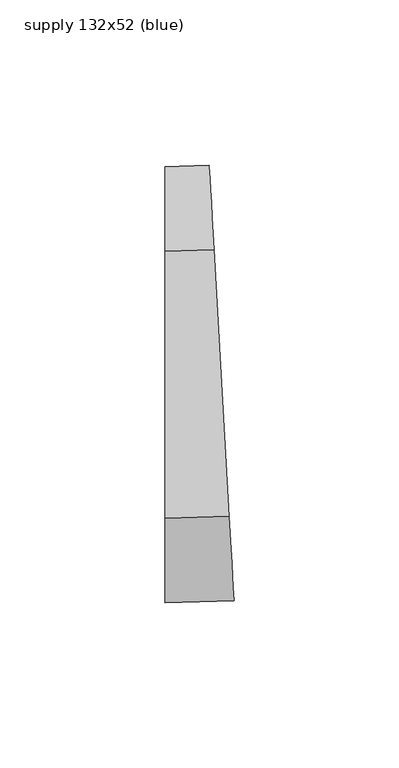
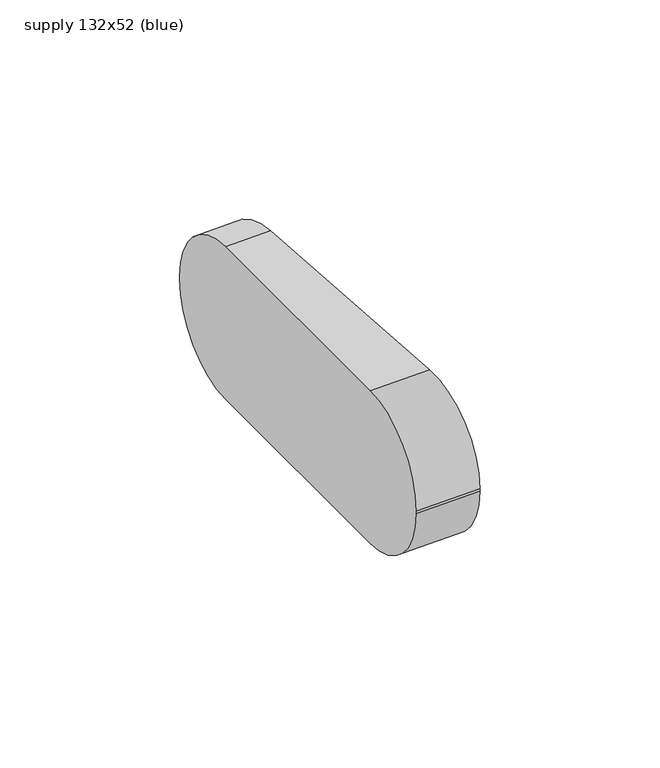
"""IFC4 building model written with IfcOpenShell, lengths in millimetres: duct segment geometry, NLRS_57_DUF_UN_Hybalans flexbend oval_M&G : supply 132x52 (blue)."""

from ifc_helpers import new_model, si_unit, point, frame, origin, place, context, project, spatial, polyline, circle_curve, ellipse_curve, trimmed, source, transform, mapped, element, save
from ifc_brep_helpers import plane_surface, cylinder_surface, revolved_surface, advanced_brep


def supply_132x52_blue_63ce6e41(model_context):
    return source(origin(), model_context, "Body", "AdvancedBrep", [
        advanced_brep(
        [(-8.5652348, -40.4, 26.0), (-8.5652348, 40.4, 26.0), (-8.5652348, 66.0, 0.4), (-8.5652348, 66.0, -0.4), (-8.5652348, 40.4, -26.0), (-8.5652348, -40.4, -26.0), (-8.5652348, -66.0, -0.4), (-8.5652348, -66.0, 0.4), (10.8563067, -39.8454998, 26.0), (12.3169161, -65.4037982, 0.4), (12.3169161, -65.4037982, -0.4), (10.8563067, -39.8454998, -26.0), (6.246258, 40.8228797, -26.0), (4.7856486, 66.3811782, -0.4), (4.7856486, 66.3811782, 0.4), (6.246258, 40.8228797, 26.0)],
        [
            (0, 1),
            (1, 2, circle_curve(frame((-8.5652348, 40.4, 0.4), z_axis=(-1.0, 0.0, 0.0), x_axis=(0.0, 1.0, 0.0)), 25.6)),
            (2, 3),
            (3, 4, circle_curve(frame((-8.5652348, 40.4, -0.4), z_axis=(-1.0, 0.0, 0.0), x_axis=(0.0, 1.0, 0.0)), 25.6)),
            (4, 5),
            (5, 6, circle_curve(frame((-8.5652348, -40.4, -0.4), z_axis=(-1.0, 0.0, 0.0), x_axis=(0.0, 1.0, 0.0)), 25.6)),
            (6, 7),
            (7, 0, circle_curve(frame((-8.5652348, -40.4, 0.4), z_axis=(-1.0, 0.0, 0.0), x_axis=(0.0, 1.0, 0.0)), 25.6)),
            (8, 9, circle_curve(frame((10.8563067, -39.8454998, 0.4), z_axis=(0.998371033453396, 0.0570550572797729, 0.0), x_axis=(-0.0570550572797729, 0.998371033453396, 0.0)), 25.6)),
            (9, 10),
            (10, 11, circle_curve(frame((10.8563067, -39.8454998, -0.4), z_axis=(0.998371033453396, 0.0570550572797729, 0.0), x_axis=(-0.0570550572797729, 0.998371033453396, 0.0)), 25.6)),
            (11, 12),
            (12, 13, circle_curve(frame((6.246258, 40.8228797, -0.4), z_axis=(0.998371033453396, 0.0570550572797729, 0.0), x_axis=(-0.0570550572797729, 0.998371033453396, 0.0)), 25.6)),
            (13, 14),
            (14, 15, circle_curve(frame((6.246258, 40.8228797, 0.4), z_axis=(0.998371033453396, 0.0570550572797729, 0.0), x_axis=(-0.0570550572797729, 0.998371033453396, 0.0)), 25.6)),
            (15, 8),
            (15, 1, circle_curve(frame((-8.5652348, 300.0, 26.0), z_axis=(0.0, 0.0, -1.0), x_axis=(0.0, -1.0, 0.0)), 259.6)),
            (0, 8, circle_curve(frame((-8.5652348, 300.0, 26.0), z_axis=(0.0, 0.0, 1.0), x_axis=(0.0, -1.0, 0.0)), 340.4)),
            (14, 2, circle_curve(frame((-8.5652348, 300.0, 0.4), z_axis=(0.0, 0.0, -1.0), x_axis=(0.0, -1.0, 0.0)), 234.0)),
            (13, 3, circle_curve(frame((-8.5652348, 300.0, -0.4), z_axis=(0.0, 0.0, -1.0), x_axis=(0.0, -1.0, 0.0)), 234.0)),
            (12, 4, circle_curve(frame((-8.5652348, 300.0, -26.0), z_axis=(0.0, 0.0, -1.0), x_axis=(0.0, -1.0, 0.0)), 259.6)),
            (11, 5, circle_curve(frame((-8.5652348, 300.0, -26.0), z_axis=(0.0, 0.0, -1.0), x_axis=(0.0, -1.0, 0.0)), 340.4)),
            (10, 6, circle_curve(frame((-8.5652348, 300.0, -0.4), z_axis=(0.0, 0.0, -1.0), x_axis=(0.0, -1.0, 0.0)), 366.0)),
            (9, 7, circle_curve(frame((-8.5652348, 300.0, 0.4), z_axis=(0.0, 0.0, -1.0), x_axis=(0.0, -1.0, 0.0)), 366.0)),
        ],
        [
            plane_surface(frame((-8.5652348, 0.0, 0.0), z_axis=(-1.0, 0.0, 0.0), x_axis=(0.0, 0.0, 1.0))),
            plane_surface(frame((8.5512824, 0.48869, 0.0), z_axis=(0.998371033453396, 0.057055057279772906, 0.0), x_axis=(0.0, 0.0, 1.0))),
            plane_surface(frame((-8.5652348, 300.0, 26.0), z_axis=(0.0, 0.0, 1.0), x_axis=(0.0, -1.0, 0.0))),
            revolved_surface(trimmed(ellipse_curve(frame((-8.5652348, 40.4, 0.4), z_axis=(-1.0, 0.0, 0.0), x_axis=(0.0, 1.0, 0.0)), 25.6, 25.6), [point((-8.5652348, 40.4, 26.0))], [point((-8.5652348, 66.0, 0.4))], True, "CARTESIAN"), (-8.5652348, 300.0, 0.0), (0.0, 0.0, 1.0)),
            revolved_surface(polyline([(-8.5652348, 66.0, 0.4), (-8.5652348, 66.0, -0.4)]), (-8.5652348, 300.0, 0.0), (0.0, 0.0, 1.0)),
            revolved_surface(trimmed(ellipse_curve(frame((-8.5652348, 40.4, -0.4), z_axis=(-1.0, 0.0, 0.0), x_axis=(0.0, 1.0, 0.0)), 25.6, 25.6), [point((-8.5652348, 66.0, -0.4))], [point((-8.5652348, 40.4, -26.0))], True, "CARTESIAN"), (-8.5652348, 300.0, 0.0), (0.0, 0.0, 1.0)),
            plane_surface(frame((-8.5652348, 300.0, -26.0), z_axis=(0.0, 0.0, -1.0), x_axis=(0.0, -1.0, 0.0))),
            revolved_surface(trimmed(ellipse_curve(frame((-8.5652348, -40.4, -0.4), z_axis=(-1.0, 0.0, 0.0), x_axis=(0.0, 1.0, 0.0)), 25.6, 25.6), [point((-8.5652348, -40.4, -26.0))], [point((-8.5652348, -66.0, -0.4))], True, "CARTESIAN"), (-8.5652348, 300.0, 0.0), (0.0, 0.0, 1.0)),
            cylinder_surface(frame((-8.5652348, 300.0, 0.0), z_axis=(0.0, 0.0, 1.0), x_axis=(0.0, -1.0, 0.0)), 366.0),
            revolved_surface(trimmed(ellipse_curve(frame((-8.5652348, -40.4, 0.4), z_axis=(-1.0, 0.0, 0.0), x_axis=(0.0, 1.0, 0.0)), 25.6, 25.6), [point((-8.5652348, -66.0, 0.4))], [point((-8.5652348, -40.4, 26.0))], True, "CARTESIAN"), (-8.5652348, 300.0, 0.0), (0.0, 0.0, 1.0)),
        ],
        [
            (0, [[1, 2, 3, 4, 5, 6, 7, 8]]),
            (1, [[9, 10, 11, 12, 13, 14, 15, 16]]),
            (2, [[17, -1, 18, -16]]),
            (3, [[19, -2, -17, -15]]),
            (4, [[20, -3, -19, -14]]),
            (5, [[21, -4, -20, -13]]),
            (6, [[22, -5, -21, -12]]),
            (7, [[23, -6, -22, -11]]),
            (8, [[24, -7, -23, -10]]),
            (9, [[-18, -8, -24, -9]]),
        ],
    ),
    ])


if __name__ == "__main__":
    model = new_model("IFC4")
    model_context = context("Model", 3, world=origin())
    ifc_project = project(units=[si_unit("LENGTHUNIT", "METRE", prefix="MILLI")], contexts=[model_context])
    site = spatial("IfcSite", under=ifc_project)
    building = spatial("IfcBuilding", under=site)
    placement = place(None, origin())
    supply_132x52_blue_shape = supply_132x52_blue_63ce6e41(model_context)
    element("IfcDuctSegment", 1, ObjectType="NLRS_57_DUF_UN_Hybalans flexbend oval_M&G : supply 132x52 (blue)", at=placement, inside=building, context=model_context, shape_type="MappedRepresentation", body=[
        mapped(supply_132x52_blue_shape, transform((0.0, 0.0, 0.0), x_axis=(1.0, 0.0, 0.0), y_axis=(0.0, 1.0, 0.0), z_axis=(0.0, 0.0, 1.0))),
    ])
    save(model, "model.ifc")
